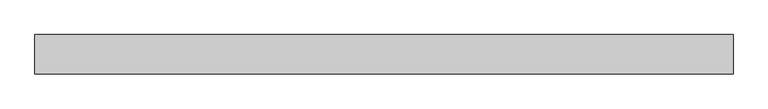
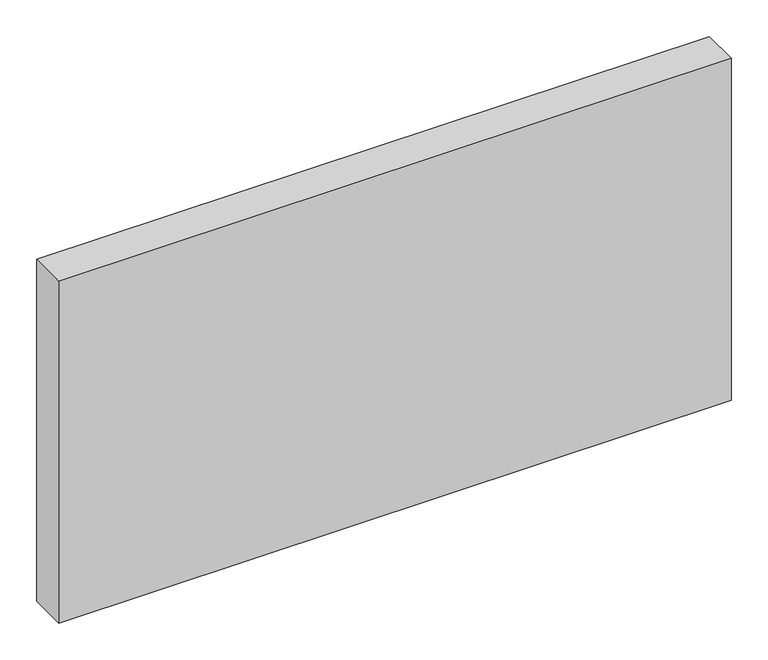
"""IFC4 building model written with IfcOpenShell, lengths in millimetres: plate geometry, Системная панель : Алюкобонд серый."""

from ifc_helpers import new_model, si_unit, origin, origin_with_axes, place, context, project, spatial, polyline, outline, extrude, source, transform, mapped, element, save


def plate_b3dea5c8(model_context):
    return source(origin(), model_context, "Body", "SweptSolid", [
        extrude(outline(polyline([(530.5, -49.5), (-530.5, -49.5), (-530.5, 10.5), (530.5, 10.5), (530.5, -49.5)])), origin_with_axes(), (0.0, 0.0, 1.0), 570.0),
    ])


if __name__ == "__main__":
    model = new_model("IFC4")
    model_context = context("Model", 3, world=origin())
    ifc_project = project(units=[si_unit("LENGTHUNIT", "METRE", prefix="MILLI")], contexts=[model_context])
    site = spatial("IfcSite", under=ifc_project)
    building = spatial("IfcBuilding", under=site)
    placement = place(None, origin())
    plate_shape = plate_b3dea5c8(model_context)
    element("IfcPlate", 1, ObjectType="Системная панель : Алюкобонд серый", at=placement, inside=building, context=model_context, shape_type="MappedRepresentation", body=[
        mapped(plate_shape, transform((0.0, 0.0, 0.0), x_axis=(1.0, 0.0, 0.0), y_axis=(0.0, 1.0, 0.0), z_axis=(0.0, 0.0, 1.0))),
    ])
    save(model, "model.ifc")
